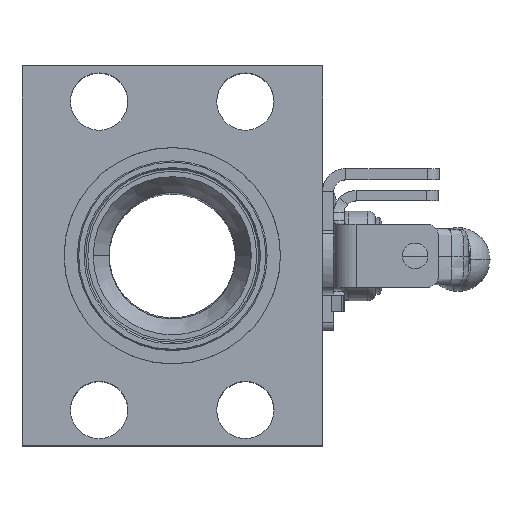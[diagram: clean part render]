
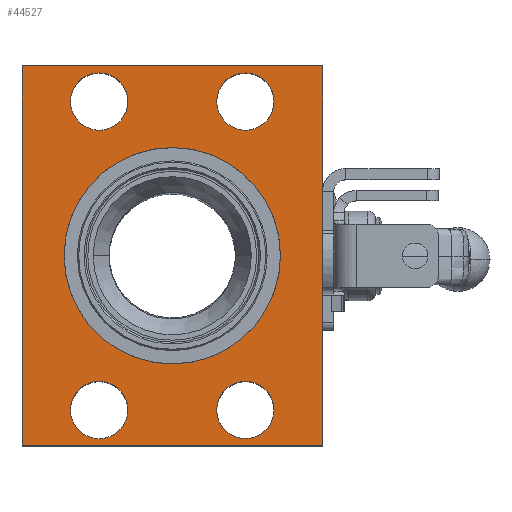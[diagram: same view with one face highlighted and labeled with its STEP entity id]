
A CAD part, top view. The second image highlights one B-rep face of the part: STEP entity #44527.
In plain terms, the highlighted planar face has unit normal (0, 0, 1).
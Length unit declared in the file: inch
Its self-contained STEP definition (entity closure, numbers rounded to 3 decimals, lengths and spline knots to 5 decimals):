
#132 = CIRCLE ( 'NONE', #33307, 0.453 ) ;
#156 = ORIENTED_EDGE ( 'NONE', *, *, #29705, .F. ) ;
#567 = CARTESIAN_POINT ( 'NONE',  ( 2.375, -3., 2.25 ) ) ;
#759 = FACE_BOUND ( 'NONE', #34393, .T. ) ;
#916 = VERTEX_POINT ( 'NONE', #25087 ) ;
#2596 = DIRECTION ( 'NONE',  ( 1., 0., 0. ) ) ;
#2770 = CARTESIAN_POINT ( 'NONE',  ( 1.156, -2.437, 2.25 ) ) ;
#2871 = CARTESIAN_POINT ( 'NONE',  ( 0., 0., 2.25 ) ) ;
#3401 = DIRECTION ( 'NONE',  ( 1., 0., 0. ) ) ;
#3404 = CARTESIAN_POINT ( 'NONE',  ( -1.156, -2.437, 2.25 ) ) ;
#3741 = EDGE_LOOP ( 'NONE', ( #5691, #156 ) ) ;
#4681 = EDGE_CURVE ( 'NONE', #916, #34747, #25816, .T. ) ;
#4827 = ORIENTED_EDGE ( 'NONE', *, *, #6299, .F. ) ;
#4937 = EDGE_CURVE ( 'NONE', #21223, #37044, #14718, .T. ) ;
#5274 = DIRECTION ( 'NONE',  ( -1., 0., 0. ) ) ;
#5671 = DIRECTION ( 'NONE',  ( 0., 0., 1. ) ) ;
#5691 = ORIENTED_EDGE ( 'NONE', *, *, #35320, .F. ) ;
#5906 = DIRECTION ( 'NONE',  ( 0., 0., 1. ) ) ;
#6162 = EDGE_LOOP ( 'NONE', ( #24585, #39120 ) ) ;
#6299 = EDGE_CURVE ( 'NONE', #37211, #31717, #17612, .T. ) ;
#6380 = ORIENTED_EDGE ( 'NONE', *, *, #30639, .T. ) ;
#6692 = DIRECTION ( 'NONE',  ( 0., 0., 1. ) ) ;
#6917 = AXIS2_PLACEMENT_3D ( 'NONE', #31391, #5906, #2596 ) ;
#7872 = DIRECTION ( 'NONE',  ( 0., 0., 1. ) ) ;
#8066 = DIRECTION ( 'NONE',  ( 0., 0., 1. ) ) ;
#8137 = ORIENTED_EDGE ( 'NONE', *, *, #42425, .F. ) ;
#8769 = ORIENTED_EDGE ( 'NONE', *, *, #44038, .T. ) ;
#8807 = VERTEX_POINT ( 'NONE', #13590 ) ;
#8821 = CARTESIAN_POINT ( 'NONE',  ( 0., 0., 2.25 ) ) ;
#8964 = DIRECTION ( 'NONE',  ( 1., 0., 0. ) ) ;
#9282 = DIRECTION ( 'NONE',  ( 1., 0., 0. ) ) ;
#9338 = ORIENTED_EDGE ( 'NONE', *, *, #32586, .T. ) ;
#9411 = CARTESIAN_POINT ( 'NONE',  ( 2.375, -3., 2.25 ) ) ;
#10666 = CIRCLE ( 'NONE', #38547, 0.453 ) ;
#11459 = CARTESIAN_POINT ( 'NONE',  ( -0.703, 2.437, 2.25 ) ) ;
#13089 = EDGE_CURVE ( 'NONE', #31717, #37211, #132, .T. ) ;
#13373 = CARTESIAN_POINT ( 'NONE',  ( 1.156, -2.437, 2.25 ) ) ;
#13590 = CARTESIAN_POINT ( 'NONE',  ( -2.375, 3., 2.25 ) ) ;
#13707 = EDGE_LOOP ( 'NONE', ( #33274, #35820 ) ) ;
#14137 = EDGE_CURVE ( 'NONE', #43411, #24425, #37089, .T. ) ;
#14193 = FACE_BOUND ( 'NONE', #6162, .T. ) ;
#14718 = LINE ( 'NONE', #567, #37309 ) ;
#15138 = CIRCLE ( 'NONE', #41516, 0.453 ) ;
#15142 = CARTESIAN_POINT ( 'NONE',  ( 0., 0., 2.25 ) ) ;
#15892 = CIRCLE ( 'NONE', #42269, 0.453 ) ;
#15942 = VECTOR ( 'NONE', #5274, 39.37008 ) ;
#16465 = DIRECTION ( 'NONE',  ( -1., 0., 0. ) ) ;
#16930 = DIRECTION ( 'NONE',  ( 0., 0., 1. ) ) ;
#17040 = DIRECTION ( 'NONE',  ( 0., 0., 1. ) ) ;
#17612 = CIRCLE ( 'NONE', #20632, 0.453 ) ;
#17782 = CIRCLE ( 'NONE', #22323, 0.453 ) ;
#19056 = AXIS2_PLACEMENT_3D ( 'NONE', #15142, #8066, #43224 ) ;
#20014 = EDGE_LOOP ( 'NONE', ( #8137, #21900 ) ) ;
#20054 = CARTESIAN_POINT ( 'NONE',  ( 1.609, -2.437, 2.25 ) ) ;
#20508 = CARTESIAN_POINT ( 'NONE',  ( -1.609, 2.437, 2.25 ) ) ;
#20585 = DIRECTION ( 'NONE',  ( 0., 0., 1. ) ) ;
#20632 = AXIS2_PLACEMENT_3D ( 'NONE', #35216, #17040, #31449 ) ;
#20641 = CARTESIAN_POINT ( 'NONE',  ( 1.156, 2.437, 2.25 ) ) ;
#20655 = DIRECTION ( 'NONE',  ( 0., -1., 0. ) ) ;
#21088 = DIRECTION ( 'NONE',  ( -1., 0., 0. ) ) ;
#21223 = VERTEX_POINT ( 'NONE', #35520 ) ;
#21277 = DIRECTION ( 'NONE',  ( 1., 0., 0. ) ) ;
#21337 = DIRECTION ( 'NONE',  ( 1., 0., 0. ) ) ;
#21695 = CARTESIAN_POINT ( 'NONE',  ( -1.7105, 0., 2.25 ) ) ;
#21900 = ORIENTED_EDGE ( 'NONE', *, *, #24536, .F. ) ;
#22050 = ORIENTED_EDGE ( 'NONE', *, *, #4937, .T. ) ;
#22194 = CARTESIAN_POINT ( 'NONE',  ( 0.703, 2.437, 2.25 ) ) ;
#22323 = AXIS2_PLACEMENT_3D ( 'NONE', #2770, #16930, #16465 ) ;
#23070 = VERTEX_POINT ( 'NONE', #20054 ) ;
#23444 = DIRECTION ( 'NONE',  ( 0., 0., 1. ) ) ;
#24425 = VERTEX_POINT ( 'NONE', #40556 ) ;
#24536 = EDGE_CURVE ( 'NONE', #41138, #23070, #17782, .T. ) ;
#24585 = ORIENTED_EDGE ( 'NONE', *, *, #4681, .F. ) ;
#24651 = LINE ( 'NONE', #38814, #43860 ) ;
#24845 = CARTESIAN_POINT ( 'NONE',  ( 1.7105, 0., 2.25 ) ) ;
#25087 = CARTESIAN_POINT ( 'NONE',  ( 1.609, 2.437, 2.25 ) ) ;
#25816 = CIRCLE ( 'NONE', #42347, 0.453 ) ;
#25967 = VERTEX_POINT ( 'NONE', #24845 ) ;
#26421 = CARTESIAN_POINT ( 'NONE',  ( -1.609, -2.437, 2.25 ) ) ;
#26536 = CARTESIAN_POINT ( 'NONE',  ( 2.375, 3., 2.25 ) ) ;
#27192 = VECTOR ( 'NONE', #30509, 39.37008 ) ;
#28027 = VERTEX_POINT ( 'NONE', #21695 ) ;
#28861 = FACE_BOUND ( 'NONE', #13707, .T. ) ;
#29360 = DIRECTION ( 'NONE',  ( -1., 0., 0. ) ) ;
#29558 = FACE_BOUND ( 'NONE', #20014, .T. ) ;
#29705 = EDGE_CURVE ( 'NONE', #28027, #25967, #44440, .T. ) ;
#29914 = AXIS2_PLACEMENT_3D ( 'NONE', #8821, #23444, #9282 ) ;
#30509 = DIRECTION ( 'NONE',  ( 0., 1., 0. ) ) ;
#30639 = EDGE_CURVE ( 'NONE', #37044, #34694, #37573, .T. ) ;
#31391 = CARTESIAN_POINT ( 'NONE',  ( -1.156, -2.437, 2.25 ) ) ;
#31449 = DIRECTION ( 'NONE',  ( 1., 0., 0. ) ) ;
#31717 = VERTEX_POINT ( 'NONE', #11459 ) ;
#32189 = EDGE_CURVE ( 'NONE', #34747, #916, #15138, .T. ) ;
#32586 = EDGE_CURVE ( 'NONE', #34694, #8807, #40215, .T. ) ;
#33102 = FACE_BOUND ( 'NONE', #3741, .T. ) ;
#33274 = ORIENTED_EDGE ( 'NONE', *, *, #42854, .F. ) ;
#33307 = AXIS2_PLACEMENT_3D ( 'NONE', #41300, #5671, #8964 ) ;
#33346 = FACE_OUTER_BOUND ( 'NONE', #45623, .T. ) ;
#34393 = EDGE_LOOP ( 'NONE', ( #41971, #4827 ) ) ;
#34694 = VERTEX_POINT ( 'NONE', #37050 ) ;
#34747 = VERTEX_POINT ( 'NONE', #22194 ) ;
#35216 = CARTESIAN_POINT ( 'NONE',  ( -1.156, 2.437, 2.25 ) ) ;
#35320 = EDGE_CURVE ( 'NONE', #25967, #28027, #41943, .T. ) ;
#35520 = CARTESIAN_POINT ( 'NONE',  ( -2.375, -3., 2.25 ) ) ;
#35820 = ORIENTED_EDGE ( 'NONE', *, *, #14137, .F. ) ;
#37044 = VERTEX_POINT ( 'NONE', #9411 ) ;
#37050 = CARTESIAN_POINT ( 'NONE',  ( 2.375, 3., 2.25 ) ) ;
#37089 = CIRCLE ( 'NONE', #6917, 0.453 ) ;
#37211 = VERTEX_POINT ( 'NONE', #20508 ) ;
#37309 = VECTOR ( 'NONE', #3401, 39.37008 ) ;
#37573 = LINE ( 'NONE', #38496, #27192 ) ;
#38408 = DIRECTION ( 'NONE',  ( -1., 0., 0. ) ) ;
#38496 = CARTESIAN_POINT ( 'NONE',  ( 2.375, -3., 2.25 ) ) ;
#38547 = AXIS2_PLACEMENT_3D ( 'NONE', #3404, #46332, #21337 ) ;
#38814 = CARTESIAN_POINT ( 'NONE',  ( -2.375, -3., 2.25 ) ) ;
#39120 = ORIENTED_EDGE ( 'NONE', *, *, #32189, .F. ) ;
#39929 = PLANE ( 'NONE',  #19056 ) ;
#39962 = CARTESIAN_POINT ( 'NONE',  ( 1.156, 2.437, 2.25 ) ) ;
#40215 = LINE ( 'NONE', #26536, #15942 ) ;
#40556 = CARTESIAN_POINT ( 'NONE',  ( -0.703, -2.437, 2.25 ) ) ;
#41138 = VERTEX_POINT ( 'NONE', #46314 ) ;
#41300 = CARTESIAN_POINT ( 'NONE',  ( -1.156, 2.437, 2.25 ) ) ;
#41516 = AXIS2_PLACEMENT_3D ( 'NONE', #39962, #7872, #29360 ) ;
#41943 = CIRCLE ( 'NONE', #29914, 1.7105 ) ;
#41971 = ORIENTED_EDGE ( 'NONE', *, *, #13089, .F. ) ;
#42269 = AXIS2_PLACEMENT_3D ( 'NONE', #13373, #46157, #38408 ) ;
#42347 = AXIS2_PLACEMENT_3D ( 'NONE', #20641, #6692, #21088 ) ;
#42425 = EDGE_CURVE ( 'NONE', #23070, #41138, #15892, .T. ) ;
#42854 = EDGE_CURVE ( 'NONE', #24425, #43411, #10666, .T. ) ;
#43224 = DIRECTION ( 'NONE',  ( 1., 0., 0. ) ) ;
#43411 = VERTEX_POINT ( 'NONE', #26421 ) ;
#43860 = VECTOR ( 'NONE', #20655, 39.37008 ) ;
#44038 = EDGE_CURVE ( 'NONE', #8807, #21223, #24651, .T. ) ;
#44440 = CIRCLE ( 'NONE', #45207, 1.7105 ) ;
#44527 = ADVANCED_FACE ( 'NONE', ( #33102, #28861, #14193, #29558, #759, #33346 ), #39929, .T. ) ;
#45207 = AXIS2_PLACEMENT_3D ( 'NONE', #2871, #20585, #21277 ) ;
#45623 = EDGE_LOOP ( 'NONE', ( #8769, #22050, #6380, #9338 ) ) ;
#46157 = DIRECTION ( 'NONE',  ( 0., 0., 1. ) ) ;
#46314 = CARTESIAN_POINT ( 'NONE',  ( 0.703, -2.437, 2.25 ) ) ;
#46332 = DIRECTION ( 'NONE',  ( 0., 0., 1. ) ) ;
